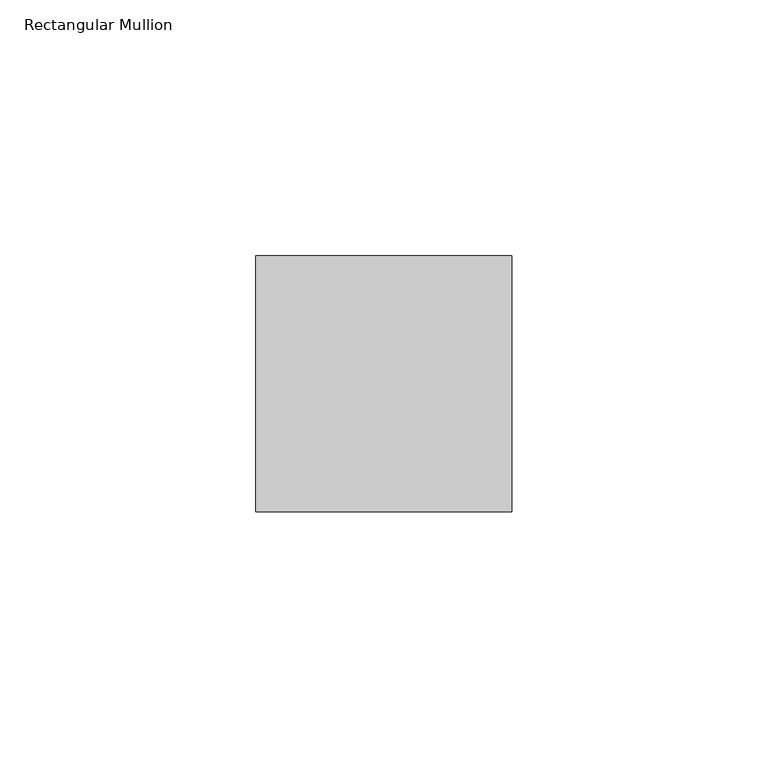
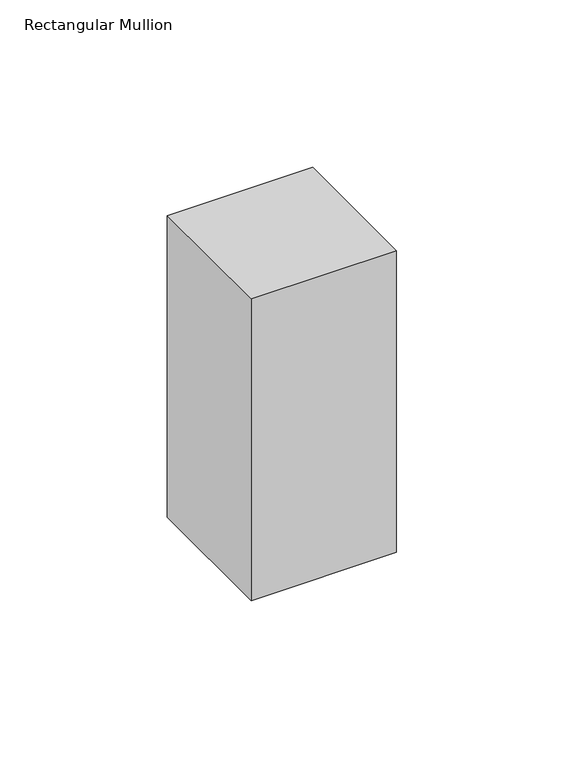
"""IFC4 building model written with IfcOpenShell, lengths in millimetres: member geometry, Rectangular Mullion : RSen_21_CWM_support profile 50x50 - left_gen_duco projects."""

from ifc_helpers import new_model, si_unit, frame, origin, place, context, project, spatial, polyline, outline, extrude, source, transform, mapped, element, save


def rectangular_mullion_077c8cc5(model_context):
    return source(origin(), model_context, "Body", "SweptSolid", [
        extrude(outline(polyline([(0.0, 1.0), (0.0, -49.0), (-50.0, -49.0), (-50.0, 1.0), (0.0, 1.0)])), frame((0.0, 0.0, -110.0), z_axis=(0.0, 0.0, 1.0), x_axis=(1.0, 0.0, 0.0)), (0.0, 0.0, 1.0), 110.0),
    ])


if __name__ == "__main__":
    model = new_model("IFC4")
    model_context = context("Model", 3, world=origin())
    ifc_project = project(units=[si_unit("LENGTHUNIT", "METRE", prefix="MILLI")], contexts=[model_context])
    site = spatial("IfcSite", under=ifc_project)
    building = spatial("IfcBuilding", under=site)
    placement = place(None, origin())
    rectangular_mullion_shape = rectangular_mullion_077c8cc5(model_context)
    element("IfcMember", 1, ObjectType="Rectangular Mullion : RSen_21_CWM_support profile 50x50 - left_gen_duco projects", at=placement, inside=building, context=model_context, shape_type="MappedRepresentation", body=[
        mapped(rectangular_mullion_shape, transform((0.0, 0.0, 0.0), x_axis=(1.0, 0.0, 0.0), y_axis=(0.0, 1.0, 0.0), z_axis=(0.0, 0.0, 1.0))),
    ])
    save(model, "model.ifc")
